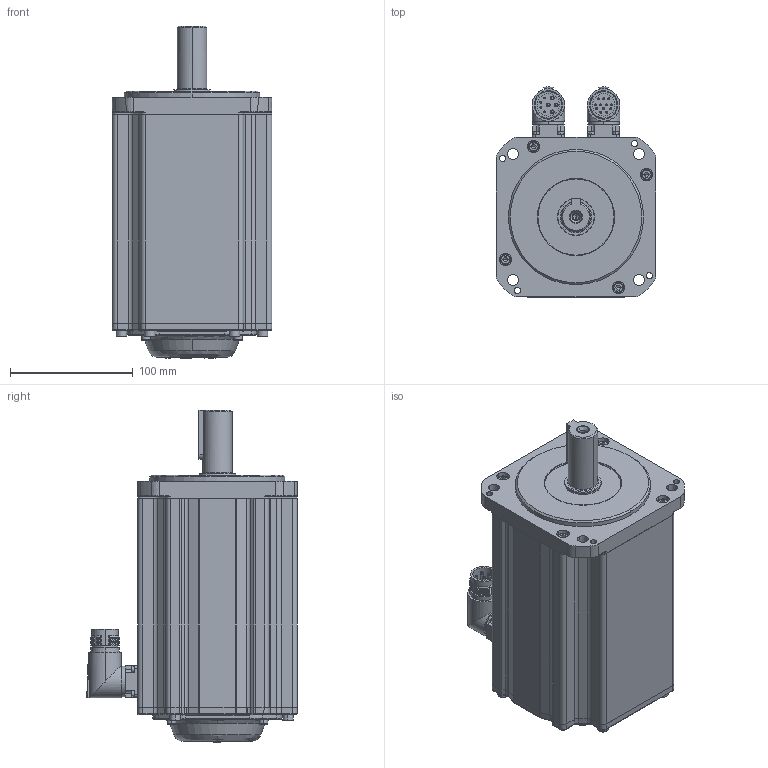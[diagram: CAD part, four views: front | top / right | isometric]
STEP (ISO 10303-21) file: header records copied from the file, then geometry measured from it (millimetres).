
FILE_DESCRIPTION (( 'STEP AP203' ), '1' );
FILE_NAME ('MC20-130-3L30-N402-0¡õPK-NNNN.STEP', '2025-10-08T02:02:18', ( '' ), ( '' ), 'SwSTEP 2.0', 'SolidWorks 2014', '' );
FILE_SCHEMA (( 'CONFIG_CONTROL_DESIGN' ));
Length unit declared in the file: millimetre
Products named in the file (1): MC20-130-3L30-N402-0¡õPK-NNNN
Bounding box: 130 x 171.35 x 270.2 mm (x, y, z)
Volume: 3106027.1 mm3; surface area: 294877.5 mm2
Topology: 28 solids, 28 shells, 2024 faces, 4803 edges, 2863 vertices
Faces by surface type: plane 735, cylinder 568, cone 357, bspline 204, torus 148, sphere 12
Entity records: 62203 total; most frequent: CARTESIAN_POINT 16842, DIRECTION 9530, ORIENTED_EDGE 9382, EDGE_CURVE 4691, AXIS2_PLACEMENT_3D 3694, VERTEX_POINT 2863, EDGE_LOOP 2270, LINE 2142
